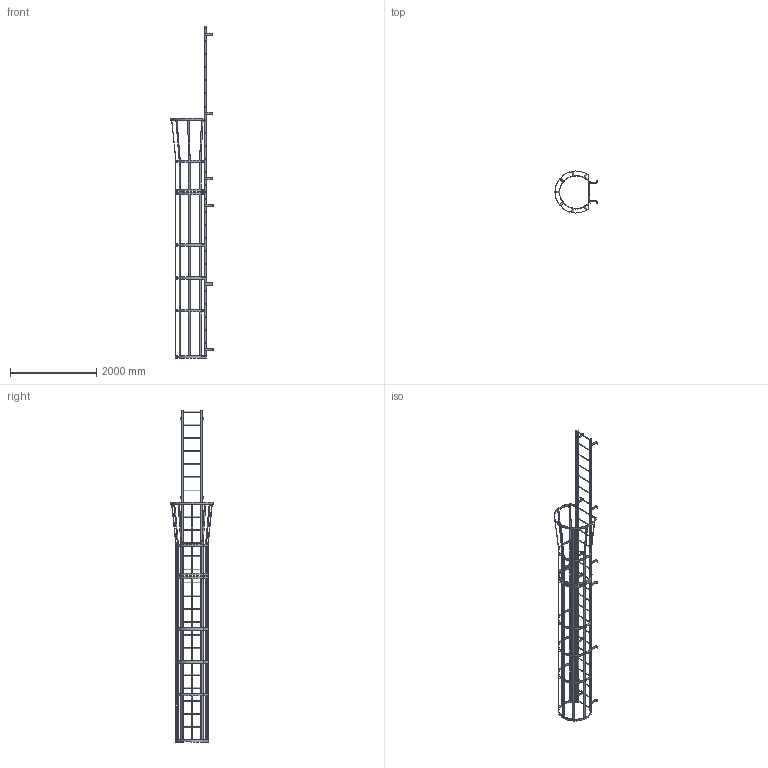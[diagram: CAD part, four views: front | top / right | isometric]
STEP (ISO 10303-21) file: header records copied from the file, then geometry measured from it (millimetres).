
FILE_DESCRIPTION(/* description */ (''),/* implementation_level */ '2;1');
FILE_NAME(/* name */ 'P:\MIKEL & KAREN\D0570195-12 F26SC SIMPLIFIED PART.stp',/* time_stamp */ '2018-07-03T08:08:20-04:00',/* author */ ('stephanie'),/* organization */ (''),/* preprocessor_version */ 'ST-DEVELOPER v16.1',/* originating_system */ 'Autodesk Inventor 2016',/* authorisation */ '');
FILE_SCHEMA (('AUTOMOTIVE_DESIGN { 1 0 10303 214 3 1 1 }'));
Length unit declared in the file: centimetre
Products named in the file (1): D0570195-12 F26SC SIMPLIFIED PART
Bounding box: 974.15 x 977.88 x 7696.2 mm (x, y, z)
Volume: 25703102.8 mm3; surface area: 9081411.6 mm2
Topology: 41 solids, 41 shells, 737 faces, 2159 edges, 1384 vertices
Faces by surface type: plane 478, cylinder 259
Full cylindrical faces by diameter (mm): 14.287 x14, 19.05 x26, 22.225 x52
Entity records: 24673 total; most frequent: ORIENTED_EDGE 4198, DIRECTION 4091, CARTESIAN_POINT 4057, EDGE_CURVE 2001, LINE 1387, VECTOR 1387, AXIS2_PLACEMENT_3D 1352, VERTEX_POINT 1318
